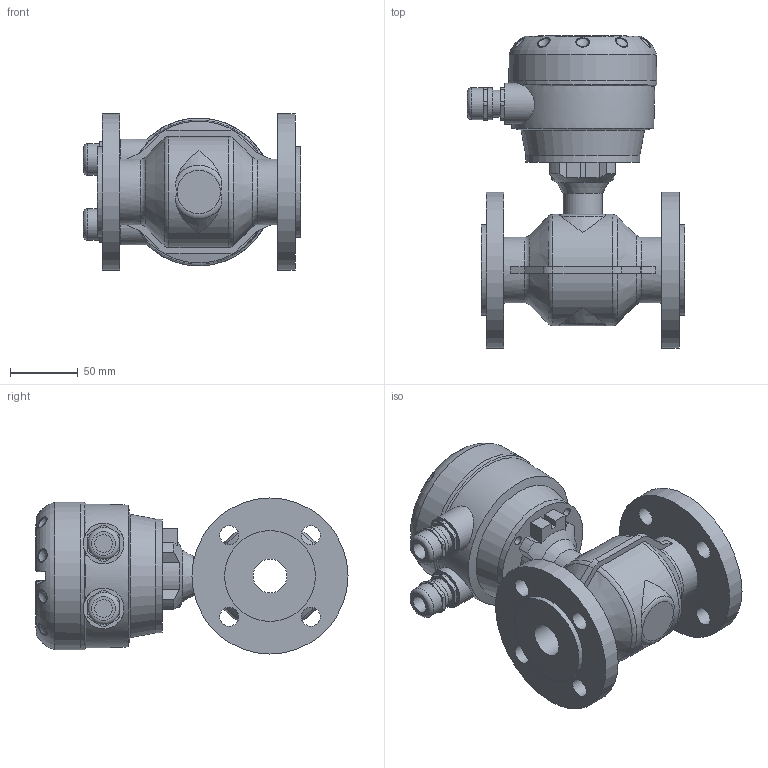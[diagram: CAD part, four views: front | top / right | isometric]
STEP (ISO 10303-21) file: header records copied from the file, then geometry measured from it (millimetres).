
FILE_DESCRIPTION (( 'STEP AP203' ), '1' );
FILE_NAME ('KROHNE_OPTIFLUX_2-4000W_DIN2635_DN25_PN40.STEP', '2011-04-26T11:25:43', ( '' ), ( '' ), 'SwSTEP 2.0', 'SolidWorks 2010', '' );
FILE_SCHEMA (( 'CONFIG_CONTROL_DESIGN' ));
Length unit declared in the file: millimetre
Products named in the file (1): KROHNE_OPTIFLUX_2-4000W_DIN2635_DN25_PN40
Bounding box: 160 x 229.99 x 115 mm (x, y, z)
Volume: 1450807.9 mm3; surface area: 194919 mm2
Topology: 14 solids, 18 shells, 399 faces, 968 edges, 626 vertices
Faces by surface type: plane 183, cylinder 98, bspline 53, torus 34, cone 18, sphere 13
Full cylindrical faces by diameter (mm): 4 x4, 6.6 x8, 13 x2, 14 x8, 20 x2, 23.5 x4, 25 x1, 29 x1, 30 x2, 48.6 x2, 67 x2, 84 x2, 109 x1, 115 x2
Entity records: 16176 total; most frequent: CARTESIAN_POINT 7405, ORIENTED_EDGE 1762, DIRECTION 1661, EDGE_CURVE 881, AXIS2_PLACEMENT_3D 615, VERTEX_POINT 607, EDGE_LOOP 532, FACE_OUTER_BOUND 457
